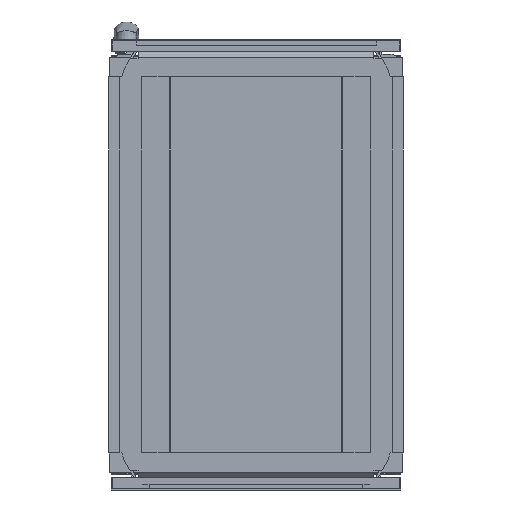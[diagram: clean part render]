
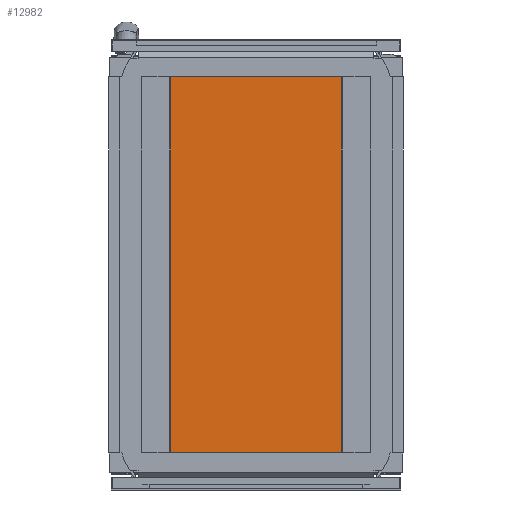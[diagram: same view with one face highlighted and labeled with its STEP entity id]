
A CAD part, front view. The second image highlights one B-rep face of the part: STEP entity #12982.
In plain terms, the highlighted planar face has unit normal (0, -1, 0).
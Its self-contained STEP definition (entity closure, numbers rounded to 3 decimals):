
#397=CIRCLE('',#14063,4.5);
#3807=ORIENTED_EDGE('',*,*,#5700,.F.);
#3808=ORIENTED_EDGE('',*,*,#5701,.F.);
#3809=ORIENTED_EDGE('',*,*,#5702,.F.);
#3810=ORIENTED_EDGE('',*,*,#5703,.F.);
#3811=ORIENTED_EDGE('',*,*,#5704,.F.);
#3812=ORIENTED_EDGE('',*,*,#5705,.F.);
#3813=ORIENTED_EDGE('',*,*,#5706,.F.);
#3814=ORIENTED_EDGE('',*,*,#5707,.F.);
#3815=ORIENTED_EDGE('',*,*,#5708,.F.);
#3816=ORIENTED_EDGE('',*,*,#5709,.F.);
#3817=ORIENTED_EDGE('',*,*,#5710,.F.);
#3818=ORIENTED_EDGE('',*,*,#5711,.F.);
#3819=ORIENTED_EDGE('',*,*,#5712,.F.);
#3820=ORIENTED_EDGE('',*,*,#5713,.F.);
#3821=ORIENTED_EDGE('',*,*,#5714,.F.);
#3822=ORIENTED_EDGE('',*,*,#5715,.F.);
#3823=ORIENTED_EDGE('',*,*,#5716,.F.);
#5700=EDGE_CURVE('',#6945,#6945,#397,.F.);
#5701=EDGE_CURVE('',#6946,#6947,#8411,.T.);
#5702=EDGE_CURVE('',#6948,#6946,#8412,.T.);
#5703=EDGE_CURVE('',#6949,#6948,#8413,.T.);
#5704=EDGE_CURVE('',#6950,#6949,#8414,.T.);
#5705=EDGE_CURVE('',#6951,#6950,#8415,.T.);
#5706=EDGE_CURVE('',#6952,#6951,#8416,.T.);
#5707=EDGE_CURVE('',#6953,#6952,#8417,.T.);
#5708=EDGE_CURVE('',#6954,#6953,#8418,.T.);
#5709=EDGE_CURVE('',#6955,#6954,#8419,.T.);
#5710=EDGE_CURVE('',#6956,#6955,#8420,.T.);
#5711=EDGE_CURVE('',#6957,#6956,#8421,.T.);
#5712=EDGE_CURVE('',#6958,#6957,#8422,.T.);
#5713=EDGE_CURVE('',#6959,#6958,#8423,.T.);
#5714=EDGE_CURVE('',#6960,#6959,#8424,.T.);
#5715=EDGE_CURVE('',#6961,#6960,#8425,.T.);
#5716=EDGE_CURVE('',#6947,#6961,#8426,.T.);
#6945=VERTEX_POINT('',#21135);
#6946=VERTEX_POINT('',#21137);
#6947=VERTEX_POINT('',#21138);
#6948=VERTEX_POINT('',#21140);
#6949=VERTEX_POINT('',#21142);
#6950=VERTEX_POINT('',#21144);
#6951=VERTEX_POINT('',#21146);
#6952=VERTEX_POINT('',#21148);
#6953=VERTEX_POINT('',#21150);
#6954=VERTEX_POINT('',#21152);
#6955=VERTEX_POINT('',#21154);
#6956=VERTEX_POINT('',#21156);
#6957=VERTEX_POINT('',#21158);
#6958=VERTEX_POINT('',#21160);
#6959=VERTEX_POINT('',#21162);
#6960=VERTEX_POINT('',#21164);
#6961=VERTEX_POINT('',#21166);
#8411=LINE('',#21136,#9909);
#8412=LINE('',#21139,#9910);
#8413=LINE('',#21141,#9911);
#8414=LINE('',#21143,#9912);
#8415=LINE('',#21145,#9913);
#8416=LINE('',#21147,#9914);
#8417=LINE('',#21149,#9915);
#8418=LINE('',#21151,#9916);
#8419=LINE('',#21153,#9917);
#8420=LINE('',#21155,#9918);
#8421=LINE('',#21157,#9919);
#8422=LINE('',#21159,#9920);
#8423=LINE('',#21161,#9921);
#8424=LINE('',#21163,#9922);
#8425=LINE('',#21165,#9923);
#8426=LINE('',#21167,#9924);
#9909=VECTOR('',#17334,1000.);
#9910=VECTOR('',#17335,1000.);
#9911=VECTOR('',#17336,1000.);
#9912=VECTOR('',#17337,1000.);
#9913=VECTOR('',#17338,1000.);
#9914=VECTOR('',#17339,1000.);
#9915=VECTOR('',#17340,1000.);
#9916=VECTOR('',#17341,1000.);
#9917=VECTOR('',#17342,1000.);
#9918=VECTOR('',#17343,1000.);
#9919=VECTOR('',#17344,1000.);
#9920=VECTOR('',#17345,1000.);
#9921=VECTOR('',#17346,1000.);
#9922=VECTOR('',#17347,1000.);
#9923=VECTOR('',#17348,1000.);
#9924=VECTOR('',#17349,1000.);
#10835=EDGE_LOOP('',(#3807));
#10836=EDGE_LOOP('',(#3808,#3809,#3810,#3811,#3812,#3813,#3814,#3815,#3816,
#3817,#3818,#3819,#3820,#3821,#3822,#3823));
#11705=FACE_BOUND('',#10835,.T.);
#11706=FACE_BOUND('',#10836,.T.);
#12286=PLANE('',#14062);
#12982=ADVANCED_FACE('',(#11705,#11706),#12286,.F.);
#14062=AXIS2_PLACEMENT_3D('',#21133,#17330,#17331);
#14063=AXIS2_PLACEMENT_3D('',#21134,#17332,#17333);
#17330=DIRECTION('',(0.,1.,0.));
#17331=DIRECTION('',(0.,0.,1.));
#17332=DIRECTION('',(0.,1.,0.));
#17333=DIRECTION('',(0.,0.,1.));
#17334=DIRECTION('',(0.,0.,1.));
#17335=DIRECTION('',(-0.685,0.,0.729));
#17336=DIRECTION('',(-0.319,0.,0.948));
#17337=DIRECTION('',(-0.54,0.,0.842));
#17338=DIRECTION('',(-1.,0.,0.));
#17339=DIRECTION('',(-0.54,0.,-0.842));
#17340=DIRECTION('',(-0.319,0.,-0.948));
#17341=DIRECTION('',(-0.685,0.,-0.729));
#17342=DIRECTION('',(0.,0.,-1.));
#17343=DIRECTION('',(0.685,0.,-0.729));
#17344=DIRECTION('',(0.319,0.,-0.948));
#17345=DIRECTION('',(0.54,0.,-0.842));
#17346=DIRECTION('',(1.,0.,0.));
#17347=DIRECTION('',(0.54,0.,0.842));
#17348=DIRECTION('',(0.319,0.,0.948));
#17349=DIRECTION('',(0.685,0.,0.729));
#21133=CARTESIAN_POINT('',(-195.,15.5,284.));
#21134=CARTESIAN_POINT('',(122.5,15.5,0.));
#21135=CARTESIAN_POINT('',(122.5,15.5,4.5));
#21136=CARTESIAN_POINT('',(-181.25,15.5,-255.007));
#21137=CARTESIAN_POINT('',(-181.25,15.5,-255.007));
#21138=CARTESIAN_POINT('',(-181.25,15.5,255.007));
#21139=CARTESIAN_POINT('',(-178.761,15.5,-257.654));
#21140=CARTESIAN_POINT('',(-178.761,15.5,-257.654));
#21141=CARTESIAN_POINT('',(-175.553,15.5,-267.183));
#21142=CARTESIAN_POINT('',(-175.553,15.5,-267.183));
#21143=CARTESIAN_POINT('',(-170.057,15.5,-275.75));
#21144=CARTESIAN_POINT('',(-170.057,15.5,-275.75));
#21145=CARTESIAN_POINT('',(170.057,15.5,-275.75));
#21146=CARTESIAN_POINT('',(170.057,15.5,-275.75));
#21147=CARTESIAN_POINT('',(175.553,15.5,-267.183));
#21148=CARTESIAN_POINT('',(175.553,15.5,-267.183));
#21149=CARTESIAN_POINT('',(178.761,15.5,-257.654));
#21150=CARTESIAN_POINT('',(178.761,15.5,-257.654));
#21151=CARTESIAN_POINT('',(181.25,15.5,-255.007));
#21152=CARTESIAN_POINT('',(181.25,15.5,-255.007));
#21153=CARTESIAN_POINT('',(181.25,15.5,255.007));
#21154=CARTESIAN_POINT('',(181.25,15.5,255.007));
#21155=CARTESIAN_POINT('',(178.761,15.5,257.654));
#21156=CARTESIAN_POINT('',(178.761,15.5,257.654));
#21157=CARTESIAN_POINT('',(175.553,15.5,267.183));
#21158=CARTESIAN_POINT('',(175.553,15.5,267.183));
#21159=CARTESIAN_POINT('',(170.057,15.5,275.75));
#21160=CARTESIAN_POINT('',(170.057,15.5,275.75));
#21161=CARTESIAN_POINT('',(-170.057,15.5,275.75));
#21162=CARTESIAN_POINT('',(-170.057,15.5,275.75));
#21163=CARTESIAN_POINT('',(-175.553,15.5,267.183));
#21164=CARTESIAN_POINT('',(-175.553,15.5,267.183));
#21165=CARTESIAN_POINT('',(-178.761,15.5,257.654));
#21166=CARTESIAN_POINT('',(-178.761,15.5,257.654));
#21167=CARTESIAN_POINT('',(-181.25,15.5,255.007));
